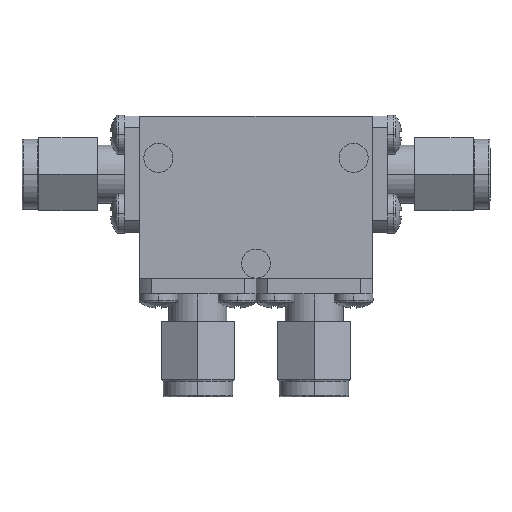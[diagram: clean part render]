
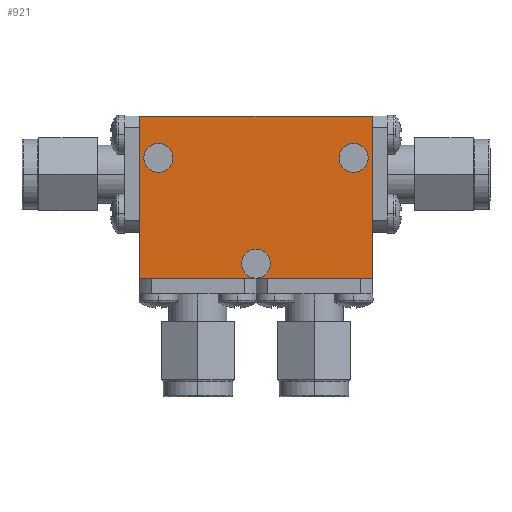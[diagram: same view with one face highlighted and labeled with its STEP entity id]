
A CAD part, top view. The second image highlights one B-rep face of the part: STEP entity #921.
In plain terms, the highlighted planar face has unit normal (0, 0, 1).
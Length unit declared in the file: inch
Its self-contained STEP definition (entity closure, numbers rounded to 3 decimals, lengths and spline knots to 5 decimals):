
#19 = DIRECTION ( 'NONE',  ( 1., 0., 0. ) ) ;
#51 = CIRCLE ( 'NONE', #2980, 0.0625 ) ;
#105 = LINE ( 'NONE', #165, #1013 ) ;
#149 = EDGE_CURVE ( 'NONE', #2006, #1477, #105, .T. ) ;
#165 = CARTESIAN_POINT ( 'NONE',  ( -0.5, -0.35, 0.25 ) ) ;
#231 = CARTESIAN_POINT ( 'NONE',  ( 0.42, 0.17, 0.25 ) ) ;
#260 = ORIENTED_EDGE ( 'NONE', *, *, #2427, .T. ) ;
#348 = VERTEX_POINT ( 'NONE', #3084 ) ;
#350 = ORIENTED_EDGE ( 'NONE', *, *, #3270, .F. ) ;
#407 = CARTESIAN_POINT ( 'NONE',  ( -0.42, 0.17, 0.25 ) ) ;
#422 = EDGE_LOOP ( 'NONE', ( #519, #350 ) ) ;
#438 = LINE ( 'NONE', #2381, #2632 ) ;
#449 = FACE_BOUND ( 'NONE', #422, .T. ) ;
#458 = EDGE_LOOP ( 'NONE', ( #2501, #2281 ) ) ;
#460 = VERTEX_POINT ( 'NONE', #2274 ) ;
#503 = DIRECTION ( 'NONE',  ( 0., 0., 1. ) ) ;
#519 = ORIENTED_EDGE ( 'NONE', *, *, #3023, .F. ) ;
#525 = CARTESIAN_POINT ( 'NONE',  ( -0.5, 0.35, 0.25 ) ) ;
#527 = CARTESIAN_POINT ( 'NONE',  ( 0.42, 0.17, 0.25 ) ) ;
#715 = FACE_BOUND ( 'NONE', #458, .T. ) ;
#762 = CARTESIAN_POINT ( 'NONE',  ( 0., -0.285, 0.25 ) ) ;
#806 = DIRECTION ( 'NONE',  ( 0., 1., 0. ) ) ;
#841 = EDGE_CURVE ( 'NONE', #1340, #1505, #3340, .T. ) ;
#843 = CARTESIAN_POINT ( 'NONE',  ( -0.5, 0.35, 0.25 ) ) ;
#899 = VECTOR ( 'NONE', #2186, 39.37008 ) ;
#921 = ADVANCED_FACE ( 'NONE', ( #3095, #715, #449, #1322 ), #1228, .T. ) ;
#955 = EDGE_CURVE ( 'NONE', #1505, #1340, #2468, .T. ) ;
#980 = VERTEX_POINT ( 'NONE', #2888 ) ;
#1006 = DIRECTION ( 'NONE',  ( 0., 0., 1. ) ) ;
#1013 = VECTOR ( 'NONE', #1714, 39.37008 ) ;
#1023 = AXIS2_PLACEMENT_3D ( 'NONE', #231, #1006, #3094 ) ;
#1130 = CARTESIAN_POINT ( 'NONE',  ( 0.4825, 0.17, 0.25 ) ) ;
#1195 = VECTOR ( 'NONE', #1508, 39.37008 ) ;
#1211 = AXIS2_PLACEMENT_3D ( 'NONE', #1231, #3072, #1758 ) ;
#1228 = PLANE ( 'NONE',  #1252 ) ;
#1231 = CARTESIAN_POINT ( 'NONE',  ( 0., -0.285, 0.25 ) ) ;
#1252 = AXIS2_PLACEMENT_3D ( 'NONE', #3116, #3070, #1489 ) ;
#1322 = FACE_OUTER_BOUND ( 'NONE', #3008, .T. ) ;
#1340 = VERTEX_POINT ( 'NONE', #1130 ) ;
#1453 = EDGE_CURVE ( 'NONE', #1842, #2533, #1476, .T. ) ;
#1457 = DIRECTION ( 'NONE',  ( 1., 0., 0. ) ) ;
#1476 = LINE ( 'NONE', #525, #1195 ) ;
#1477 = VERTEX_POINT ( 'NONE', #1796 ) ;
#1489 = DIRECTION ( 'NONE',  ( 1., 0., 0. ) ) ;
#1505 = VERTEX_POINT ( 'NONE', #2335 ) ;
#1508 = DIRECTION ( 'NONE',  ( -1., 0., 0. ) ) ;
#1644 = CIRCLE ( 'NONE', #2091, 0.0625 ) ;
#1714 = DIRECTION ( 'NONE',  ( 1., 0., 0. ) ) ;
#1751 = CARTESIAN_POINT ( 'NONE',  ( -0.5, -0.35, 0.25 ) ) ;
#1758 = DIRECTION ( 'NONE',  ( 1., 0., 0. ) ) ;
#1770 = DIRECTION ( 'NONE',  ( 1., 0., 0. ) ) ;
#1796 = CARTESIAN_POINT ( 'NONE',  ( 0.5, -0.35, 0.25 ) ) ;
#1834 = ORIENTED_EDGE ( 'NONE', *, *, #2857, .T. ) ;
#1842 = VERTEX_POINT ( 'NONE', #2510 ) ;
#2006 = VERTEX_POINT ( 'NONE', #1751 ) ;
#2091 = AXIS2_PLACEMENT_3D ( 'NONE', #762, #503, #3146 ) ;
#2170 = CIRCLE ( 'NONE', #2806, 0.0625 ) ;
#2174 = CIRCLE ( 'NONE', #1211, 0.0625 ) ;
#2186 = DIRECTION ( 'NONE',  ( 0., -1., 0. ) ) ;
#2187 = AXIS2_PLACEMENT_3D ( 'NONE', #527, #2606, #19 ) ;
#2265 = DIRECTION ( 'NONE',  ( 0., 0., 1. ) ) ;
#2274 = CARTESIAN_POINT ( 'NONE',  ( -0.3575, 0.17, 0.25 ) ) ;
#2281 = ORIENTED_EDGE ( 'NONE', *, *, #2652, .F. ) ;
#2335 = CARTESIAN_POINT ( 'NONE',  ( 0.3575, 0.17, 0.25 ) ) ;
#2381 = CARTESIAN_POINT ( 'NONE',  ( 0.5, 0.35, 0.25 ) ) ;
#2390 = LINE ( 'NONE', #2954, #899 ) ;
#2427 = EDGE_CURVE ( 'NONE', #2533, #2006, #2390, .T. ) ;
#2435 = ORIENTED_EDGE ( 'NONE', *, *, #955, .F. ) ;
#2468 = CIRCLE ( 'NONE', #2187, 0.0625 ) ;
#2501 = ORIENTED_EDGE ( 'NONE', *, *, #2695, .F. ) ;
#2510 = CARTESIAN_POINT ( 'NONE',  ( 0.5, 0.35, 0.25 ) ) ;
#2533 = VERTEX_POINT ( 'NONE', #843 ) ;
#2556 = CARTESIAN_POINT ( 'NONE',  ( 0.0625, -0.285, 0.25 ) ) ;
#2564 = EDGE_LOOP ( 'NONE', ( #2658, #2435 ) ) ;
#2606 = DIRECTION ( 'NONE',  ( 0., 0., 1. ) ) ;
#2632 = VECTOR ( 'NONE', #806, 39.37008 ) ;
#2652 = EDGE_CURVE ( 'NONE', #980, #2667, #2174, .T. ) ;
#2658 = ORIENTED_EDGE ( 'NONE', *, *, #841, .F. ) ;
#2667 = VERTEX_POINT ( 'NONE', #2556 ) ;
#2695 = EDGE_CURVE ( 'NONE', #2667, #980, #1644, .T. ) ;
#2789 = ORIENTED_EDGE ( 'NONE', *, *, #1453, .T. ) ;
#2806 = AXIS2_PLACEMENT_3D ( 'NONE', #407, #3044, #1457 ) ;
#2857 = EDGE_CURVE ( 'NONE', #1477, #1842, #438, .T. ) ;
#2888 = CARTESIAN_POINT ( 'NONE',  ( -0.0625, -0.285, 0.25 ) ) ;
#2954 = CARTESIAN_POINT ( 'NONE',  ( -0.5, 0.35, 0.25 ) ) ;
#2980 = AXIS2_PLACEMENT_3D ( 'NONE', #3326, #2265, #1770 ) ;
#3008 = EDGE_LOOP ( 'NONE', ( #1834, #2789, #260, #3073 ) ) ;
#3023 = EDGE_CURVE ( 'NONE', #460, #348, #2170, .T. ) ;
#3044 = DIRECTION ( 'NONE',  ( 0., 0., 1. ) ) ;
#3070 = DIRECTION ( 'NONE',  ( 0., 0., 1. ) ) ;
#3072 = DIRECTION ( 'NONE',  ( 0., 0., 1. ) ) ;
#3073 = ORIENTED_EDGE ( 'NONE', *, *, #149, .T. ) ;
#3084 = CARTESIAN_POINT ( 'NONE',  ( -0.4825, 0.17, 0.25 ) ) ;
#3094 = DIRECTION ( 'NONE',  ( 1., 0., 0. ) ) ;
#3095 = FACE_BOUND ( 'NONE', #2564, .T. ) ;
#3116 = CARTESIAN_POINT ( 'NONE',  ( 0., 0., 0.25 ) ) ;
#3146 = DIRECTION ( 'NONE',  ( 1., 0., 0. ) ) ;
#3270 = EDGE_CURVE ( 'NONE', #348, #460, #51, .T. ) ;
#3326 = CARTESIAN_POINT ( 'NONE',  ( -0.42, 0.17, 0.25 ) ) ;
#3340 = CIRCLE ( 'NONE', #1023, 0.0625 ) ;
